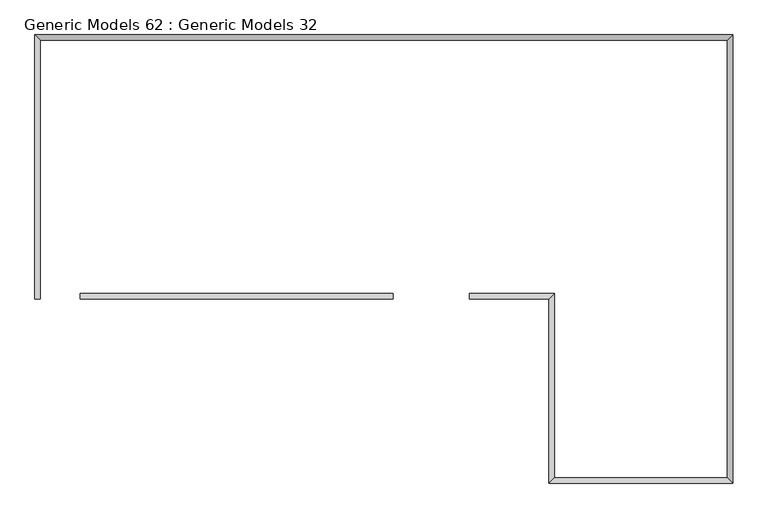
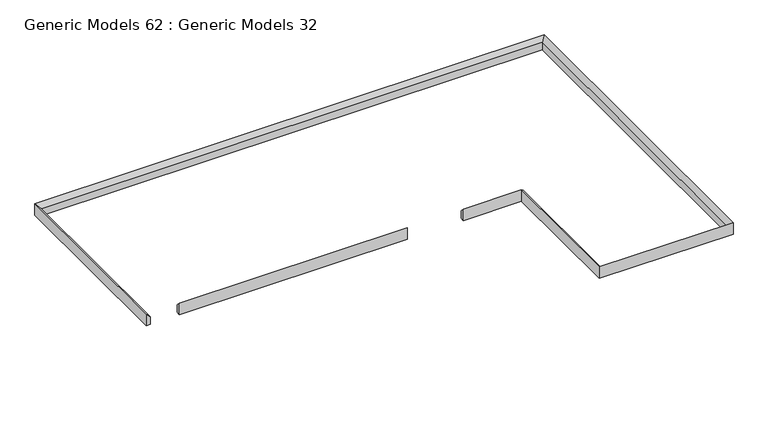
"""IFC4 building model written with IfcOpenShell, lengths in millimetres: proxy geometry, Generic Models 62 : Generic Models 32."""

from ifc_helpers import new_model, si_unit, frame, origin, place, context, project, spatial, polyline, outline, extrude, faceted_brep, source, transform, mapped, element, save


def generic_models_62_generic_models_32_8d04a695(model_context):
    return source(origin(), model_context, "Body", "SolidModel", [
        extrude(outline(polyline([(20457.4925063, 44170.0), (20307.4925063, 44170.0), (20307.4925063, 44630.0), (20457.4925063, 44470.0), (20457.4925063, 44170.0)])), frame((-122987.9372768, 0.0, 0.0), z_axis=(1.0, 0.0, 0.0), x_axis=(0.0, 1.0, 0.0)), (0.0, 0.0, 1.0), 8640.0),
        faceted_brep([(-124097.9372768, 20307.4925063, 44470.0), (-124097.9372768, 20307.4925063, 44170.0), (-124097.9372768, 27458.4151802, 44170.0), (-124097.9372768, 27458.4151802, 44470.0), (-124247.9372768, 20307.4925063, 44630.0), (-124247.9372768, 27608.4151802, 44630.0), (-124247.9372768, 20307.4925063, 44170.0), (-124247.9372768, 27608.4151802, 44170.0), (-105097.9372768, 27458.4151802, 44170.0), (-105097.9372768, 27458.4151802, 44470.0), (-104947.9372768, 27608.4151802, 44630.0), (-104947.9372768, 27608.4151802, 44170.0), (-112227.9372768, 20457.4925063, 44170.0), (-112227.9372768, 20307.4925063, 44170.0), (-112227.9372768, 20307.4925063, 44630.0), (-112227.9372768, 20457.4925063, 44470.0), (-105097.9372768, 15357.4703267, 44170.0), (-105097.9372768, 15357.4703267, 44470.0), (-104947.9372768, 15207.4703267, 44630.0), (-104947.9372768, 15207.4703267, 44170.0), (-110027.9372768, 15207.4703267, 44170.0), (-110027.9372768, 20307.4925063, 44170.0), (-109877.9372768, 20457.4925063, 44170.0), (-109877.9372768, 15357.4703267, 44170.0), (-109877.9372768, 15357.4703267, 44470.0), (-110027.9372768, 15207.4703267, 44630.0), (-109877.9372768, 20457.4925063, 44470.0), (-110027.9372768, 20307.4925063, 44630.0)], [[[0, 1, 2, 3]], [[4, 0, 3, 5]], [[6, 4, 5, 7]], [[3, 2, 8, 9]], [[5, 3, 9, 10]], [[7, 5, 10, 11]], [[1, 0, 4, 6]], [[12, 13, 14, 15]], [[9, 8, 16, 17]], [[10, 9, 17, 18]], [[11, 10, 18, 19]], [[1, 6, 7, 11, 19, 20, 21, 13, 12, 22, 23, 16, 8, 2]], [[17, 16, 23, 24]], [[18, 17, 24, 25]], [[19, 18, 25, 20]], [[24, 23, 22, 26]], [[25, 24, 26, 27]], [[20, 25, 27, 21]], [[26, 22, 12, 15]], [[27, 26, 15, 14]], [[21, 27, 14, 13]]]),
    ])


if __name__ == "__main__":
    model = new_model("IFC4")
    model_context = context("Model", 3, world=origin())
    ifc_project = project(units=[si_unit("LENGTHUNIT", "METRE", prefix="MILLI")], contexts=[model_context])
    site = spatial("IfcSite", under=ifc_project)
    building = spatial("IfcBuilding", under=site)
    placement = place(None, origin())
    generic_models_62_generic_models_32_shape = generic_models_62_generic_models_32_8d04a695(model_context)
    element("IfcBuildingElementProxy", 1, Name="Generic Models 62 : Generic Models 32", ObjectType="Generic Models 62 : Generic Models 32", at=placement, inside=building, context=model_context, shape_type="MappedRepresentation", body=[
        mapped(generic_models_62_generic_models_32_shape, transform((0.0, 0.0, 0.0), x_axis=(1.0, 0.0, 0.0), y_axis=(0.0, 1.0, 0.0), z_axis=(0.0, 0.0, 1.0))),
    ])
    save(model, "model.ifc")
